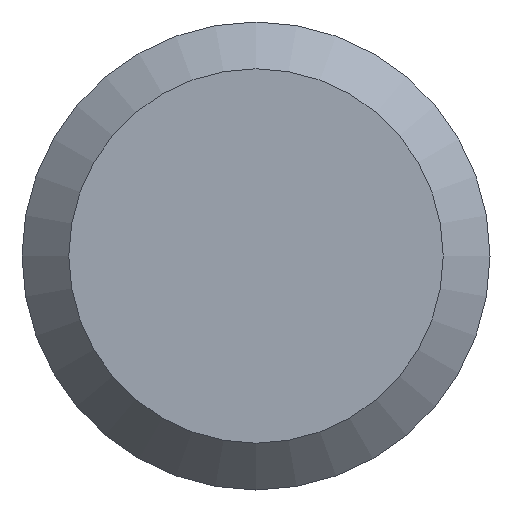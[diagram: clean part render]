
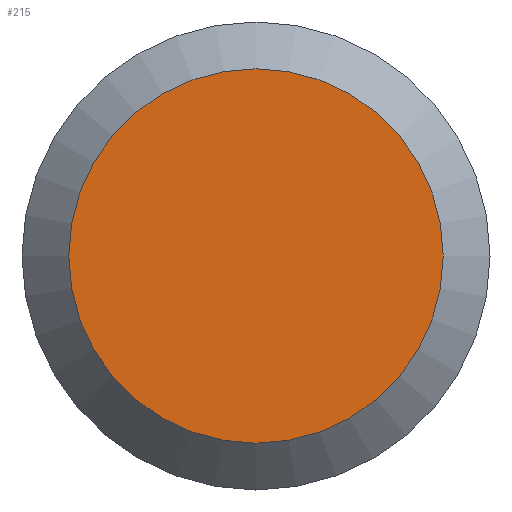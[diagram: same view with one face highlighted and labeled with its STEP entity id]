
A CAD part, left-side view. The second image highlights one B-rep face of the part: STEP entity #215.
In plain terms, the highlighted planar face has unit normal (-1, 0, 0).
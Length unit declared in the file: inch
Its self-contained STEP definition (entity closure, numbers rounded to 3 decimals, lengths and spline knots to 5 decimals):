
#10 = CARTESIAN_POINT ( 'NONE',  ( 0., 0., 0. ) ) ;
#29 = PLANE ( 'NONE',  #217 ) ;
#33 = ORIENTED_EDGE ( 'NONE', *, *, #170, .T. ) ;
#39 = DIRECTION ( 'NONE',  ( 0., 0., -1. ) ) ;
#62 = DIRECTION ( 'NONE',  ( -1., 0., 0. ) ) ;
#76 = CIRCLE ( 'NONE', #232, 0.1544 ) ;
#133 = DIRECTION ( 'NONE',  ( 1., 0., 0. ) ) ;
#134 = VERTEX_POINT ( 'NONE', #192 ) ;
#148 = FACE_OUTER_BOUND ( 'NONE', #249, .T. ) ;
#170 = EDGE_CURVE ( 'NONE', #134, #134, #76, .T. ) ;
#185 = DIRECTION ( 'NONE',  ( 0., 0., -1. ) ) ;
#192 = CARTESIAN_POINT ( 'NONE',  ( 0., 0., -0.1544 ) ) ;
#202 = CARTESIAN_POINT ( 'NONE',  ( 0., 0.193, 0. ) ) ;
#215 = ADVANCED_FACE ( 'NONE', ( #148 ), #29, .F. ) ;
#217 = AXIS2_PLACEMENT_3D ( 'NONE', #202, #133, #39 ) ;
#232 = AXIS2_PLACEMENT_3D ( 'NONE', #10, #62, #185 ) ;
#249 = EDGE_LOOP ( 'NONE', ( #33 ) ) ;
